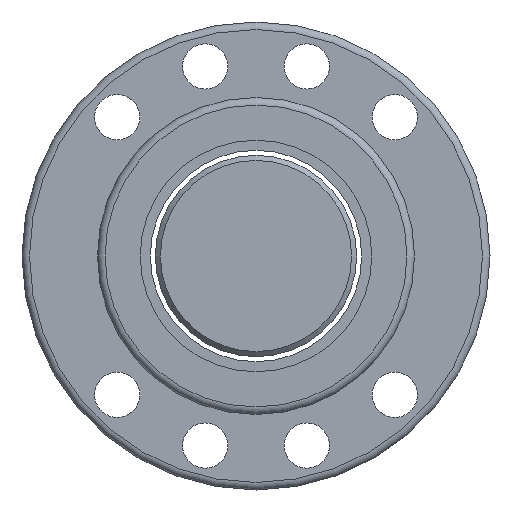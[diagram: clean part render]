
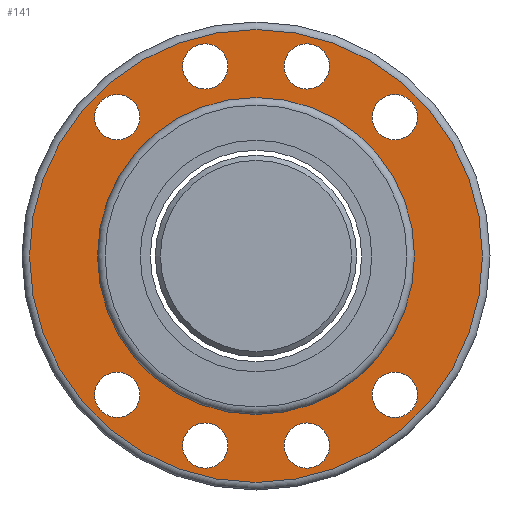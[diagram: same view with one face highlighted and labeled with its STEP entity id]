
A CAD part, left-side view. The second image highlights one B-rep face of the part: STEP entity #141.
In plain terms, the highlighted planar face has unit normal (-1, 0, 0).
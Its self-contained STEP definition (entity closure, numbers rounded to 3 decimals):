
#112=PLANE('',#568);
#125=FACE_OUTER_BOUND('',#277,.T.);
#141=ADVANCED_FACE('',(#194,#195,#196,#197,#198,#199,#200,#201,#125,#202),
#112,.F.);
#194=FACE_BOUND('',#269,.T.);
#195=FACE_BOUND('',#270,.T.);
#196=FACE_BOUND('',#271,.T.);
#197=FACE_BOUND('',#272,.T.);
#198=FACE_BOUND('',#273,.T.);
#199=FACE_BOUND('',#274,.T.);
#200=FACE_BOUND('',#275,.T.);
#201=FACE_BOUND('',#276,.T.);
#202=FACE_BOUND('',#278,.T.);
#269=EDGE_LOOP('',(#351));
#270=EDGE_LOOP('',(#352));
#271=EDGE_LOOP('',(#353));
#272=EDGE_LOOP('',(#354));
#273=EDGE_LOOP('',(#355));
#274=EDGE_LOOP('',(#356));
#275=EDGE_LOOP('',(#357));
#276=EDGE_LOOP('',(#358));
#277=EDGE_LOOP('',(#359));
#278=EDGE_LOOP('',(#360));
#351=ORIENTED_EDGE('',*,*,#466,.T.);
#352=ORIENTED_EDGE('',*,*,#467,.T.);
#353=ORIENTED_EDGE('',*,*,#468,.T.);
#354=ORIENTED_EDGE('',*,*,#469,.T.);
#355=ORIENTED_EDGE('',*,*,#470,.T.);
#356=ORIENTED_EDGE('',*,*,#471,.T.);
#357=ORIENTED_EDGE('',*,*,#472,.T.);
#358=ORIENTED_EDGE('',*,*,#473,.T.);
#359=ORIENTED_EDGE('',*,*,#474,.F.);
#360=ORIENTED_EDGE('',*,*,#475,.T.);
#425=VERTEX_POINT('',#795);
#426=VERTEX_POINT('',#797);
#427=VERTEX_POINT('',#799);
#428=VERTEX_POINT('',#801);
#429=VERTEX_POINT('',#803);
#430=VERTEX_POINT('',#805);
#431=VERTEX_POINT('',#807);
#432=VERTEX_POINT('',#809);
#433=VERTEX_POINT('',#811);
#434=VERTEX_POINT('',#813);
#466=EDGE_CURVE('',#425,#425,#507,.T.);
#467=EDGE_CURVE('',#426,#426,#508,.T.);
#468=EDGE_CURVE('',#427,#427,#509,.T.);
#469=EDGE_CURVE('',#428,#428,#510,.T.);
#470=EDGE_CURVE('',#429,#429,#511,.T.);
#471=EDGE_CURVE('',#430,#430,#512,.T.);
#472=EDGE_CURVE('',#431,#431,#513,.T.);
#473=EDGE_CURVE('',#432,#432,#514,.T.);
#474=EDGE_CURVE('',#433,#433,#515,.T.);
#475=EDGE_CURVE('',#434,#434,#516,.T.);
#507=CIRCLE('',#558,4.5);
#508=CIRCLE('',#559,4.5);
#509=CIRCLE('',#560,4.5);
#510=CIRCLE('',#561,4.5);
#511=CIRCLE('',#562,4.5);
#512=CIRCLE('',#563,4.5);
#513=CIRCLE('',#564,4.5);
#514=CIRCLE('',#565,4.5);
#515=CIRCLE('',#566,45.);
#516=CIRCLE('',#567,31.5);
#558=AXIS2_PLACEMENT_3D('',#794,#652,#653);
#559=AXIS2_PLACEMENT_3D('',#796,#654,#655);
#560=AXIS2_PLACEMENT_3D('',#798,#656,#657);
#561=AXIS2_PLACEMENT_3D('',#800,#658,#659);
#562=AXIS2_PLACEMENT_3D('',#802,#660,#661);
#563=AXIS2_PLACEMENT_3D('',#804,#662,#663);
#564=AXIS2_PLACEMENT_3D('',#806,#664,#665);
#565=AXIS2_PLACEMENT_3D('',#808,#666,#667);
#566=AXIS2_PLACEMENT_3D('',#810,#668,#669);
#567=AXIS2_PLACEMENT_3D('',#812,#670,#671);
#568=AXIS2_PLACEMENT_3D('',#814,#672,#673);
#652=DIRECTION('',(1.,0.,0.));
#653=DIRECTION('',(0.,0.,-1.));
#654=DIRECTION('',(1.,0.,0.));
#655=DIRECTION('',(0.,0.,-1.));
#656=DIRECTION('',(1.,0.,0.));
#657=DIRECTION('',(0.,0.,-1.));
#658=DIRECTION('',(1.,0.,0.));
#659=DIRECTION('',(0.,0.,-1.));
#660=DIRECTION('',(1.,0.,0.));
#661=DIRECTION('',(0.,0.,-1.));
#662=DIRECTION('',(1.,0.,0.));
#663=DIRECTION('',(0.,0.,-1.));
#664=DIRECTION('',(1.,0.,0.));
#665=DIRECTION('',(0.,0.,-1.));
#666=DIRECTION('',(1.,0.,0.));
#667=DIRECTION('',(0.,0.,-1.));
#668=DIRECTION('',(1.,0.,0.));
#669=DIRECTION('',(0.,0.,-1.));
#670=DIRECTION('',(1.,0.,0.));
#671=DIRECTION('',(0.,0.,-1.));
#672=DIRECTION('',(1.,0.,0.));
#673=DIRECTION('',(0.,0.,-1.));
#794=CARTESIAN_POINT('',(-34.,27.58,-27.58));
#795=CARTESIAN_POINT('',(-34.,27.58,-32.08));
#796=CARTESIAN_POINT('',(-34.,-27.58,-27.58));
#797=CARTESIAN_POINT('',(-34.,-27.58,-32.08));
#798=CARTESIAN_POINT('',(-34.,27.58,27.58));
#799=CARTESIAN_POINT('',(-34.,27.58,23.08));
#800=CARTESIAN_POINT('',(-34.,-27.58,27.58));
#801=CARTESIAN_POINT('',(-34.,-27.58,23.08));
#802=CARTESIAN_POINT('',(-34.,10.09,-37.67));
#803=CARTESIAN_POINT('',(-34.,10.09,-42.17));
#804=CARTESIAN_POINT('',(-34.,-10.09,-37.67));
#805=CARTESIAN_POINT('',(-34.,-10.09,-42.17));
#806=CARTESIAN_POINT('',(-34.,-10.09,37.67));
#807=CARTESIAN_POINT('',(-34.,-10.09,33.17));
#808=CARTESIAN_POINT('',(-34.,10.09,37.67));
#809=CARTESIAN_POINT('',(-34.,10.09,33.17));
#810=CARTESIAN_POINT('',(-34.,0.,0.));
#811=CARTESIAN_POINT('',(-34.,0.,-45.));
#812=CARTESIAN_POINT('',(-34.,0.,0.));
#813=CARTESIAN_POINT('',(-34.,0.,-31.5));
#814=CARTESIAN_POINT('',(-34.,38.25,0.));
